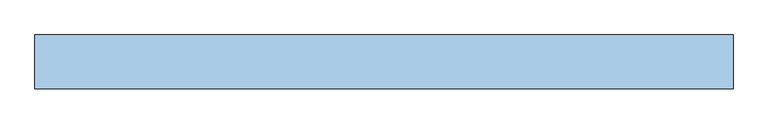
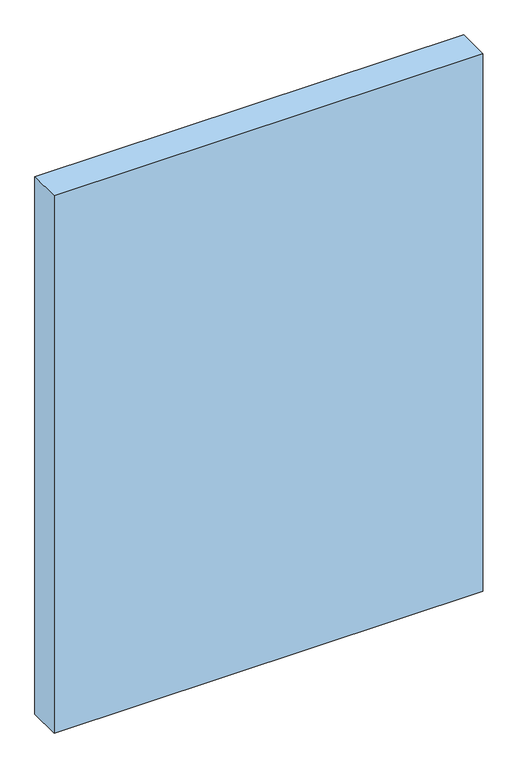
"""IFC4 building model written with IfcOpenShell, lengths in millimetres: window geometry, Dr_Проем-Четверти_окно : ВТ."""

from ifc_helpers import new_model, si_unit, frame, origin, place, context, project, spatial, polyline, outline, extrude, source, transform, mapped, element, save


def window_6e824ae3(model_context):
    return source(origin(), model_context, "Body", "SweptSolid", [
        extrude(outline(polyline([(1105.0, -50.0), (-835.0, -50.0), (-835.0, 100.0), (1105.0, 100.0), (1105.0, -50.0)])), frame((0.0, 0.0, -60.0), z_axis=(0.0, 0.0, 1.0), x_axis=(1.0, 0.0, 0.0)), (0.0, 0.0, 1.0), 2570.0),
    ])


if __name__ == "__main__":
    model = new_model("IFC4")
    model_context = context("Model", 3, world=origin())
    ifc_project = project(units=[si_unit("LENGTHUNIT", "METRE", prefix="MILLI")], contexts=[model_context])
    site = spatial("IfcSite", under=ifc_project)
    building = spatial("IfcBuilding", under=site)
    placement = place(None, origin())
    window_shape = window_6e824ae3(model_context)
    element("IfcWindow", 1, ObjectType="Dr_Проем-Четверти_окно : ВТ", at=placement, inside=building, context=model_context, shape_type="MappedRepresentation", body=[
        mapped(window_shape, transform((0.0, 0.0, 0.0), x_axis=(1.0, 0.0, 0.0), y_axis=(0.0, 1.0, 0.0), z_axis=(0.0, 0.0, 1.0))),
    ])
    save(model, "model.ifc")
